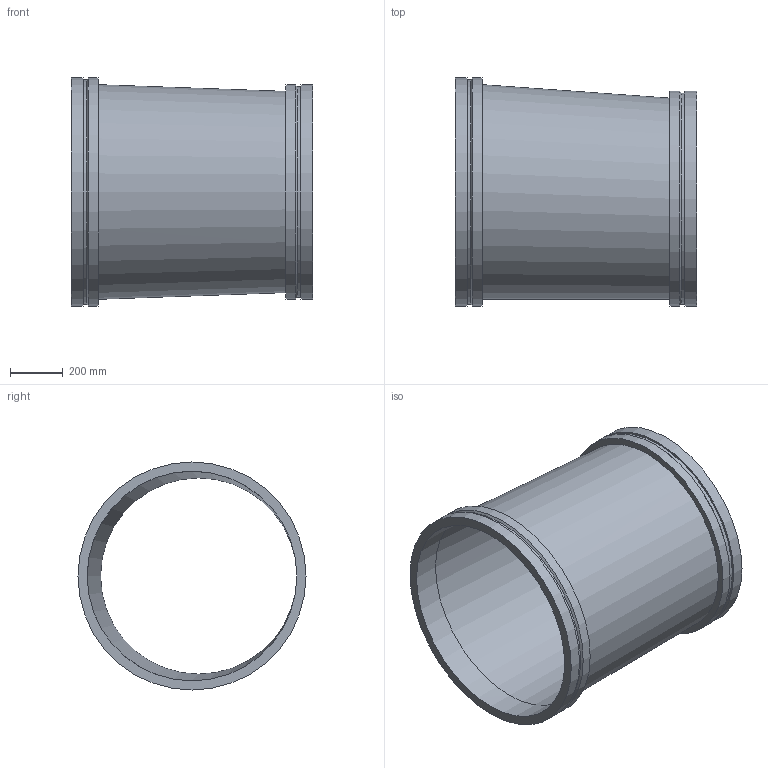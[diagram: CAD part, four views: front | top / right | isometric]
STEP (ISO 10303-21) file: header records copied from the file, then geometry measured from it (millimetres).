
FILE_DESCRIPTION(/* description */ ('VIC REDUCER ECCENTRIC No W51-VR','CAx-IF Rec.Pracs.---Representation and Presentation of Product Manufacturing Information (PMI)---4.0---2014-10-13'),/* implementation_level */ '2;1');
FILE_NAME(/* name */ 'C:\Users\kkamble\AppData\Roaming\Autodesk\ApplicationPlugins\Back Up\Victaulic_Vic-Ring_Reducer Eccentric_No W51 VR (AGR)\Victaulic_Vic-Ring_Reducer Eccentric_No W51 VR (AGR)_32.0x30.0 (800x750).stp',/* time_stamp */ '2020-09-10T11:50:31+05:00',/* author */ ('CONSTRUCTION PIPING SERVICES'),/* organization */ ('Victaulic'),/* preprocessor_version */ 'ST-DEVELOPER v17.2',/* originating_system */ 'Autodesk Inventor 2019',/* authorisation */ '');
FILE_SCHEMA (('AP242_MANAGED_MODEL_BASED_3D_ENGINEERING_MIM_LF { 1 0 10303 442 1 1 4 }'));
Length unit declared in the file: inch
Products named in the file (1): W51 VR-32.0x30.0
Bounding box: 914.4 x 863.6 x 863.6 mm (x, y, z)
Volume: 33879313.3 mm3; surface area: 4864864.2 mm2
Topology: 1 solids, 1 shells, 18 faces, 49 edges, 37 vertices
Faces by surface type: cylinder 8, plane 6, cone 2, bspline 2
Full cylindrical faces by diameter (mm): 742.95 x1, 793.75 x1, 798.322 x1, 812.8 x2, 849.122 x1, 863.6 x2
Entity records: 792 total; most frequent: CARTESIAN_POINT 158, DIRECTION 144, ORIENTED_EDGE 98, AXIS2_PLACEMENT_3D 67, EDGE_CURVE 49, CIRCLE 37, VERTEX_POINT 37, EDGE_LOOP 24
